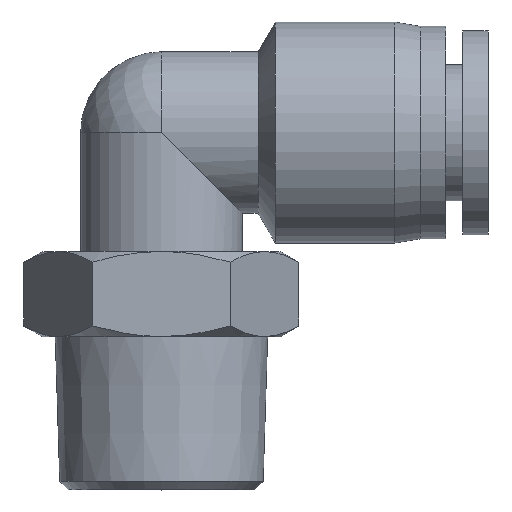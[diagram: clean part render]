
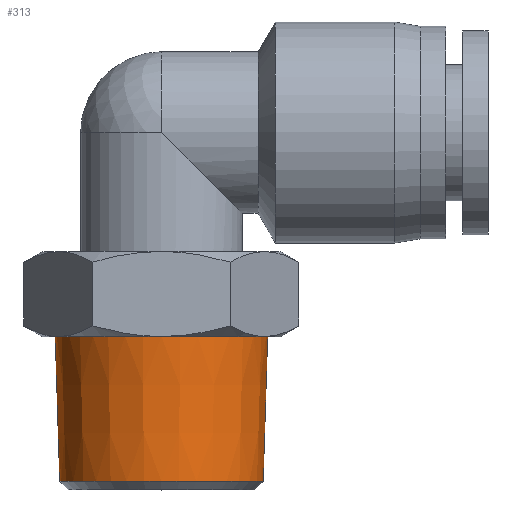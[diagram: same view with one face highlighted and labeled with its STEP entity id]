
A CAD part, top view. The second image highlights one B-rep face of the part: STEP entity #313.
In plain terms, the highlighted conical face has half-angle 1.78 degrees and reference radius 6.103 mm.
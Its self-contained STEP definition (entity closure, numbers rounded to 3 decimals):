
#270=CARTESIAN_POINT('',(-5.979,-20.5,0.));
#271=VERTEX_POINT('',#270);
#272=CARTESIAN_POINT('',(0.0,-20.5,0.));
#273=DIRECTION('',(0.0,-1.0,0.0));
#274=DIRECTION('',(1.0,0.0,0.0));
#275=AXIS2_PLACEMENT_3D('',#272,#273,#274);
#276=CIRCLE('',#275,5.979);
#277=EDGE_CURVE('',#271,#271,#276,.T.);
#294=CARTESIAN_POINT('',(0.0,-16.5,0.0));
#295=DIRECTION('',(0.0,1.0,0.0));
#296=DIRECTION('',(-1.0,0.0,0.0));
#297=AXIS2_PLACEMENT_3D('',#294,#295,#296);
#298=CONICAL_SURFACE('',#297,6.103,1.78);
#299=CARTESIAN_POINT('',(-6.243,-12.,0.0));
#300=VERTEX_POINT('',#299);
#301=CARTESIAN_POINT('',(0.0,-12.,0.0));
#302=DIRECTION('',(0.0,1.0,0.0));
#303=DIRECTION('',(-1.0,0.0,0.0));
#304=AXIS2_PLACEMENT_3D('',#301,#302,#303);
#305=CIRCLE('',#304,6.243);
#306=EDGE_CURVE('',#300,#300,#305,.T.);
#307=ORIENTED_EDGE('',*,*,#306,.F.);
#308=EDGE_LOOP('',(#307));
#309=FACE_OUTER_BOUND('',#308,.T.);
#310=ORIENTED_EDGE('',*,*,#277,.F.);
#311=EDGE_LOOP('',(#310));
#312=FACE_BOUND('',#311,.T.);
#313=ADVANCED_FACE('',(#309,#312),#298,.T.);
